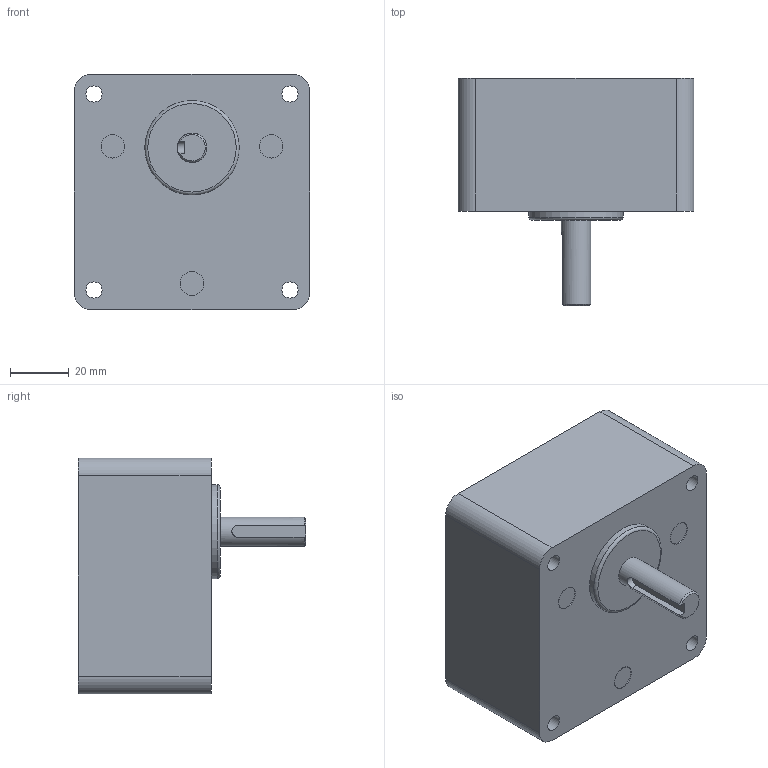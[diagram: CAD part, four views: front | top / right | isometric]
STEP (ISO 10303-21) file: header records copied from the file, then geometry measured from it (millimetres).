
FILE_DESCRIPTION((''),'2;1');
FILE_NAME('\\Servert1600\threepeace\2015homepage\STP\HP-Data_Gearhead_3D_STEP\DB-3.4.stp','2016-11-18T10:35:49',('Administrator'),(''),'Autodesk Inventor 2010','Autodesk Inventor 2010','');
FILE_SCHEMA(('AUTOMOTIVE_DESIGN { 1 0 10303 214 1 1 1 1 }'));
Length unit declared in the file: millimetre
Products named in the file (1): DB-3
Bounding box: 80 x 77 x 80 mm (x, y, z)
Volume: 274181.6 mm3; surface area: 31555.3 mm2
Topology: 1 solids, 1 shells, 32 faces, 72 edges, 48 vertices
Faces by surface type: plane 15, cylinder 11, bspline 4, cone 1, torus 1
Full cylindrical faces by diameter (mm): 8 x3, 10 x1, 32 x1, 73 x1
Entity records: 949 total; most frequent: CARTESIAN_POINT 230, DIRECTION 145, ORIENTED_EDGE 120, AXIS2_PLACEMENT_3D 60, EDGE_CURVE 60, EDGE_LOOP 57, VERTEX_POINT 47, FACE_OUTER_BOUND 32
